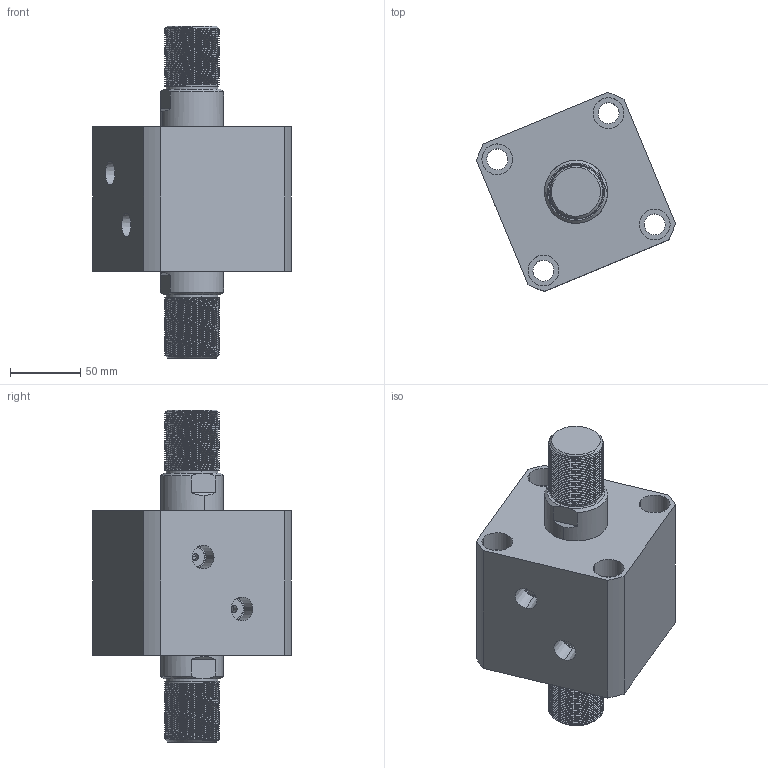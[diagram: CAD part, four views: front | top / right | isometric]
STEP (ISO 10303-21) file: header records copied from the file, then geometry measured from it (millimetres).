
FILE_DESCRIPTION (( 'STEP AP214' ), '1' );
FILE_NAME ('chtb-sw80x10w_asm.STEP', '2018-05-28T01:35:45', ( 'Windows' ), ( 'Microsoft' ), 'SwSTEP 2.0', 'SolidWorks 2015', '' );
FILE_SCHEMA (( 'AUTOMOTIVE_DESIGN' ));
Length unit declared in the file: millimetre
Products named in the file (4): CHTB-SW80X10WHSG; CHTB-SW80X10NBT; CHTB-SD80QG; chtb-sw80x10w_asm
Assembly tree (3 placements, depth 2):
  chtb-sw80x10w_asm
    CHTB-SD80QG
    CHTB-SW80X10NBT
    CHTB-SW80X10WHSG
Bounding box: 142.06 x 142.06 x 237 mm (x, y, z)
Volume: 1340053.3 mm3; surface area: 193604.1 mm2
Topology: 3 solids, 3 shells, 330 faces, 908 edges, 607 vertices
Faces by surface type: cylinder 221, plane 48, cone 25, bspline 18, torus 18
Entity records: 25864 total; most frequent: CARTESIAN_POINT 18238, ORIENTED_EDGE 1808, DIRECTION 1338, EDGE_CURVE 904, VERTEX_POINT 607, AXIS2_PLACEMENT_3D 532, EDGE_LOOP 373, ADVANCED_FACE 330
